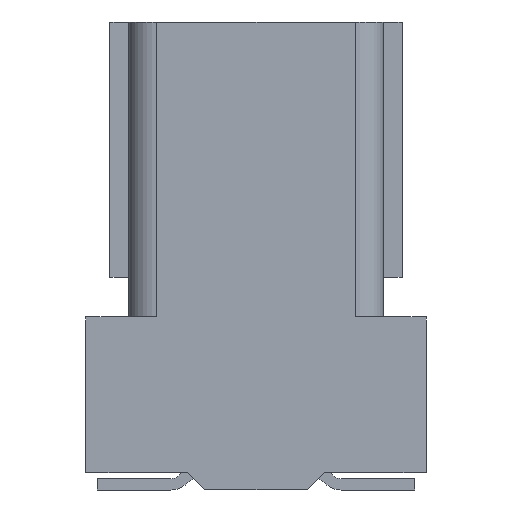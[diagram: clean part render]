
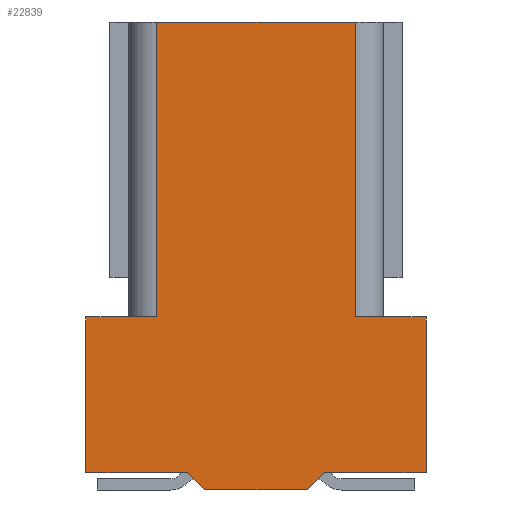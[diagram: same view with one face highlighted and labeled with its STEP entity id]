
A CAD part, left-side view. The second image highlights one B-rep face of the part: STEP entity #22839.
In plain terms, the highlighted planar face has unit normal (-1, 0, 0).
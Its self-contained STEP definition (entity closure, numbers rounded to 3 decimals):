
#28 = VECTOR ( 'NONE', #3304, 1000. ) ;
#524 = VECTOR ( 'NONE', #34129, 1000. ) ;
#3244 = CARTESIAN_POINT ( 'NONE',  ( -18., -1.75, 0. ) ) ;
#3304 = DIRECTION ( 'NONE',  ( 0., 0., -1. ) ) ;
#4252 = CARTESIAN_POINT ( 'NONE',  ( -18., -1.205, 0.3 ) ) ;
#4335 = VERTEX_POINT ( 'NONE', #30951 ) ;
#4831 = DIRECTION ( 'NONE',  ( 0., -1., 0. ) ) ;
#4946 = LINE ( 'NONE', #20020, #26973 ) ;
#5091 = VECTOR ( 'NONE', #4831, 1000. ) ;
#5169 = VECTOR ( 'NONE', #16615, 1000. ) ;
#6693 = VERTEX_POINT ( 'NONE', #23932 ) ;
#7020 = LINE ( 'NONE', #37112, #28 ) ;
#7419 = ORIENTED_EDGE ( 'NONE', *, *, #28309, .T. ) ;
#8046 = ORIENTED_EDGE ( 'NONE', *, *, #22803, .F. ) ;
#8740 = VERTEX_POINT ( 'NONE', #21322 ) ;
#8774 = ORIENTED_EDGE ( 'NONE', *, *, #16262, .F. ) ;
#9423 = CARTESIAN_POINT ( 'NONE',  ( -18., 0.905, 0. ) ) ;
#9893 = AXIS2_PLACEMENT_3D ( 'NONE', #30264, #41609, #38133 ) ;
#10385 = CARTESIAN_POINT ( 'NONE',  ( -18., -0.905, 0. ) ) ;
#10786 = LINE ( 'NONE', #44089, #524 ) ;
#11177 = CARTESIAN_POINT ( 'NONE',  ( -18., -3., 0. ) ) ;
#12523 = VERTEX_POINT ( 'NONE', #26205 ) ;
#13111 = EDGE_CURVE ( 'NONE', #12523, #6693, #20881, .T. ) ;
#13370 = ORIENTED_EDGE ( 'NONE', *, *, #23059, .F. ) ;
#14648 = DIRECTION ( 'NONE',  ( 0., 0., -1. ) ) ;
#14957 = EDGE_CURVE ( 'NONE', #12523, #4335, #45455, .T. ) ;
#14986 = LINE ( 'NONE', #34199, #5169 ) ;
#15780 = VERTEX_POINT ( 'NONE', #36725 ) ;
#16211 = VECTOR ( 'NONE', #18312, 1000. ) ;
#16262 = EDGE_CURVE ( 'NONE', #41576, #15780, #34428, .T. ) ;
#16615 = DIRECTION ( 'NONE',  ( 0., 1., 0. ) ) ;
#16822 = DIRECTION ( 'NONE',  ( 0., 0.707, 0.707 ) ) ;
#17924 = DIRECTION ( 'NONE',  ( 0., 1., 0. ) ) ;
#18312 = DIRECTION ( 'NONE',  ( 0., 0., -1. ) ) ;
#18645 = VECTOR ( 'NONE', #16822, 1000. ) ;
#20020 = CARTESIAN_POINT ( 'NONE',  ( -18., 0., 0.3 ) ) ;
#20393 = ORIENTED_EDGE ( 'NONE', *, *, #29531, .F. ) ;
#20881 = LINE ( 'NONE', #39859, #30301 ) ;
#21322 = CARTESIAN_POINT ( 'NONE',  ( -18., 3., 3.05 ) ) ;
#22027 = VECTOR ( 'NONE', #37208, 1000. ) ;
#22803 = EDGE_CURVE ( 'NONE', #42039, #41576, #14986, .T. ) ;
#22839 = ADVANCED_FACE ( 'NONE', ( #37662 ), #26818, .T. ) ;
#23059 = EDGE_CURVE ( 'NONE', #26247, #6693, #29670, .T. ) ;
#23087 = ORIENTED_EDGE ( 'NONE', *, *, #43662, .T. ) ;
#23932 = CARTESIAN_POINT ( 'NONE',  ( -18., -1.75, 3.05 ) ) ;
#24014 = EDGE_CURVE ( 'NONE', #35965, #15780, #30996, .T. ) ;
#24068 = VECTOR ( 'NONE', #14648, 1000. ) ;
#24078 = CARTESIAN_POINT ( 'NONE',  ( -18., 1.75, 8.25 ) ) ;
#24175 = VERTEX_POINT ( 'NONE', #28515 ) ;
#26205 = CARTESIAN_POINT ( 'NONE',  ( -18., -3., 3.05 ) ) ;
#26247 = VERTEX_POINT ( 'NONE', #43792 ) ;
#26589 = CARTESIAN_POINT ( 'NONE',  ( -18., 0., 0.3 ) ) ;
#26818 = PLANE ( 'NONE',  #9893 ) ;
#26973 = VECTOR ( 'NONE', #46403, 1000. ) ;
#27543 = CARTESIAN_POINT ( 'NONE',  ( -18., -0.905, 0. ) ) ;
#27776 = ORIENTED_EDGE ( 'NONE', *, *, #14957, .F. ) ;
#28309 = EDGE_CURVE ( 'NONE', #26247, #43548, #32103, .T. ) ;
#28515 = CARTESIAN_POINT ( 'NONE',  ( -18., 1.75, 3.05 ) ) ;
#28896 = ORIENTED_EDGE ( 'NONE', *, *, #13111, .T. ) ;
#29531 = EDGE_CURVE ( 'NONE', #8740, #24175, #29826, .T. ) ;
#29670 = LINE ( 'NONE', #3244, #16211 ) ;
#29760 = CARTESIAN_POINT ( 'NONE',  ( -18., 3., 0.3 ) ) ;
#29826 = LINE ( 'NONE', #44370, #22027 ) ;
#30264 = CARTESIAN_POINT ( 'NONE',  ( -18., 0., 0. ) ) ;
#30301 = VECTOR ( 'NONE', #17924, 1000. ) ;
#30951 = CARTESIAN_POINT ( 'NONE',  ( -18., -3., 0.3 ) ) ;
#30996 = LINE ( 'NONE', #26589, #5091 ) ;
#32103 = LINE ( 'NONE', #35781, #37007 ) ;
#32302 = EDGE_CURVE ( 'NONE', #4335, #47166, #4946, .T. ) ;
#34129 = DIRECTION ( 'NONE',  ( 0., 0., -1. ) ) ;
#34199 = CARTESIAN_POINT ( 'NONE',  ( -18., 0., 0. ) ) ;
#34428 = LINE ( 'NONE', #9423, #18645 ) ;
#34776 = VECTOR ( 'NONE', #35425, 1000. ) ;
#35425 = DIRECTION ( 'NONE',  ( 0., -0.707, 0.707 ) ) ;
#35781 = CARTESIAN_POINT ( 'NONE',  ( -18., 2.575, 8.25 ) ) ;
#35837 = ORIENTED_EDGE ( 'NONE', *, *, #24014, .T. ) ;
#35965 = VERTEX_POINT ( 'NONE', #29760 ) ;
#36307 = ORIENTED_EDGE ( 'NONE', *, *, #32302, .F. ) ;
#36725 = CARTESIAN_POINT ( 'NONE',  ( -18., 1.205, 0.3 ) ) ;
#37007 = VECTOR ( 'NONE', #43924, 1000. ) ;
#37112 = CARTESIAN_POINT ( 'NONE',  ( -18., 3., 0. ) ) ;
#37208 = DIRECTION ( 'NONE',  ( 0., -1., 0. ) ) ;
#37662 = FACE_OUTER_BOUND ( 'NONE', #46758, .T. ) ;
#38133 = DIRECTION ( 'NONE',  ( 0., 1., 0. ) ) ;
#38912 = EDGE_CURVE ( 'NONE', #43548, #24175, #10786, .T. ) ;
#39846 = LINE ( 'NONE', #27543, #34776 ) ;
#39859 = CARTESIAN_POINT ( 'NONE',  ( -18., -3., 3.05 ) ) ;
#41576 = VERTEX_POINT ( 'NONE', #41840 ) ;
#41609 = DIRECTION ( 'NONE',  ( -1., 0., 0. ) ) ;
#41840 = CARTESIAN_POINT ( 'NONE',  ( -18., 0.905, 0. ) ) ;
#42039 = VERTEX_POINT ( 'NONE', #10385 ) ;
#42421 = ORIENTED_EDGE ( 'NONE', *, *, #44642, .T. ) ;
#43548 = VERTEX_POINT ( 'NONE', #24078 ) ;
#43662 = EDGE_CURVE ( 'NONE', #8740, #35965, #7020, .T. ) ;
#43792 = CARTESIAN_POINT ( 'NONE',  ( -18., -1.75, 8.25 ) ) ;
#43924 = DIRECTION ( 'NONE',  ( 0., 1., 0. ) ) ;
#44089 = CARTESIAN_POINT ( 'NONE',  ( -18., 1.75, 0. ) ) ;
#44370 = CARTESIAN_POINT ( 'NONE',  ( -18., 3., 3.05 ) ) ;
#44642 = EDGE_CURVE ( 'NONE', #42039, #47166, #39846, .T. ) ;
#45455 = LINE ( 'NONE', #11177, #24068 ) ;
#46388 = ORIENTED_EDGE ( 'NONE', *, *, #38912, .T. ) ;
#46403 = DIRECTION ( 'NONE',  ( 0., 1., 0. ) ) ;
#46758 = EDGE_LOOP ( 'NONE', ( #13370, #7419, #46388, #20393, #23087, #35837, #8774, #8046, #42421, #36307, #27776, #28896 ) ) ;
#47166 = VERTEX_POINT ( 'NONE', #4252 ) ;
